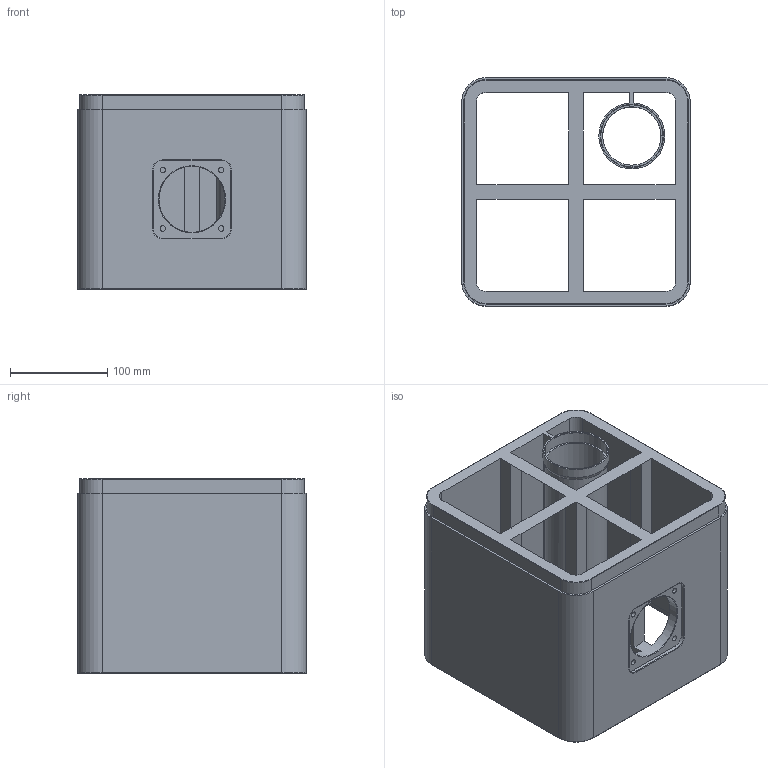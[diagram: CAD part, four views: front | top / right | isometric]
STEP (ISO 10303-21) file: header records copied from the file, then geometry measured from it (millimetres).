
FILE_DESCRIPTION(/* description */ ('STEP AP242 Edition 2','CAx-IF Rec.Pracs.---Representation and Presentation of Product Manufacturing Information (PMI)---4.0---2014-10-13','CAx-IF Rec.Pracs.---3D Tessellated Geometry---0.4---2014-09-14','2;1','CAx-IF Rec.Pracs.---User Defined Attributes---1.5---2016-08-15'),/* implementation_level */ '2;1');
FILE_NAME(/* name */ '693e38903100820afeb0ba97',/* time_stamp */ '2025-12-14T04:09:53Z',/* author */ (''),/* organization */ (''),/* preprocessor_version */ 'ST-DEVELOPER v20',/* originating_system */ 'ONSHAPE BY PTC INC, 1.208',/* authorisation */ ' ');
FILE_SCHEMA (('AP242_MANAGED_MODEL_BASED_3D_ENGINEERING_MIM_LF { 1 0 10303 442 3 1 4 }'));
Length unit declared in the file: metre
Products named in the file (1): Speaker base with terminal
Bounding box: 235 x 235 x 200 mm (x, y, z)
Volume: 2553680.8 mm3; surface area: 487840.4 mm2
Topology: 1 solids, 1 shells, 128 faces, 323 edges, 199 vertices
Faces by surface type: plane 64, cylinder 45, torus 19
Full cylindrical faces by diameter (mm): 5.7 x4, 60 x1, 64 x2, 68.1 x1
Entity records: 3782 total; most frequent: DIRECTION 678, CARTESIAN_POINT 641, ORIENTED_EDGE 620, EDGE_CURVE 310, AXIS2_PLACEMENT_3D 241, LINE 196, VECTOR 196, VERTEX_POINT 196
